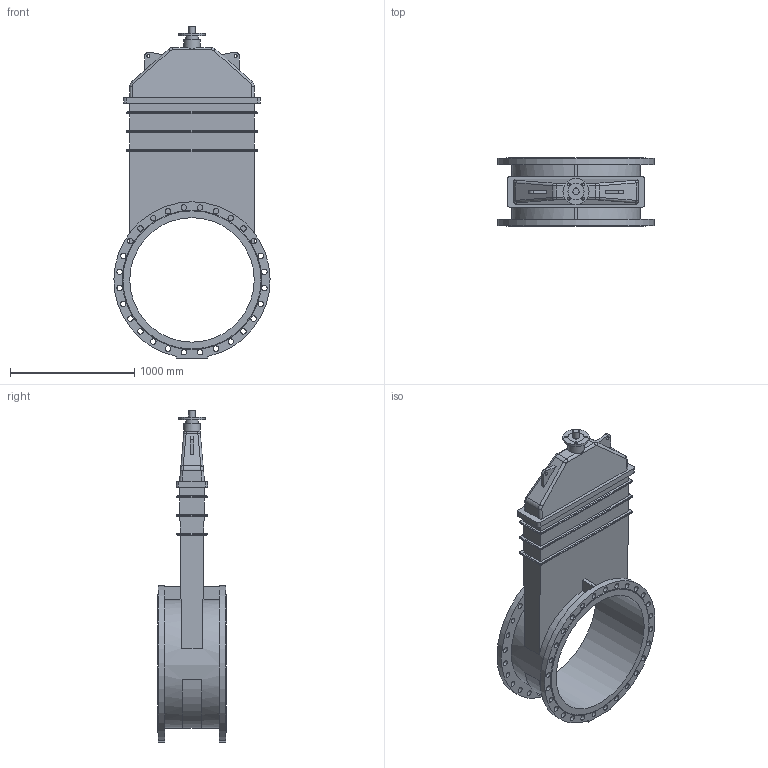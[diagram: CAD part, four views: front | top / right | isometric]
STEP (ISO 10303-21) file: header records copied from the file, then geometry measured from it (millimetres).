
FILE_DESCRIPTION(('STEP AP203'), '1');
FILE_NAME('Çàäâèæêà 47GVA DN1000 PN16_F16 áåç èñïîëíèò. ìåõ.', '', ('UNSPECIFIED'), ('UNSPECIFIED'), 'ASCON STEP Converter 1.6', 'ASCON Math Kernel', '');
FILE_SCHEMA(('CONFIG_CONTROL_DESIGN'));
Length unit declared in the file: millimetre
Bounding box: 1254.88 x 550 x 2667.5 mm (x, y, z)
Volume: 326257582.1 mm3; surface area: 9416982.7 mm2
Topology: 1 solids, 1 shells, 269 faces, 666 edges, 422 vertices
Faces by surface type: cylinder 138, plane 97, bspline 32, cone 2
Full cylindrical faces by diameter (mm): 22 x4, 25 x2, 44 x56, 50 x1, 100 x1, 130 x2, 210 x1, 1000 x1
Entity records: 12631 total; most frequent: CARTESIAN_POINT 4217, DIRECTION 1228, ORIENTED_EDGE 1192, EDGE_CURVE 596, EDGE_LOOP 488, AXIS2_PLACEMENT_3D 478, VERTEX_POINT 422, FACE_BOUND 349
